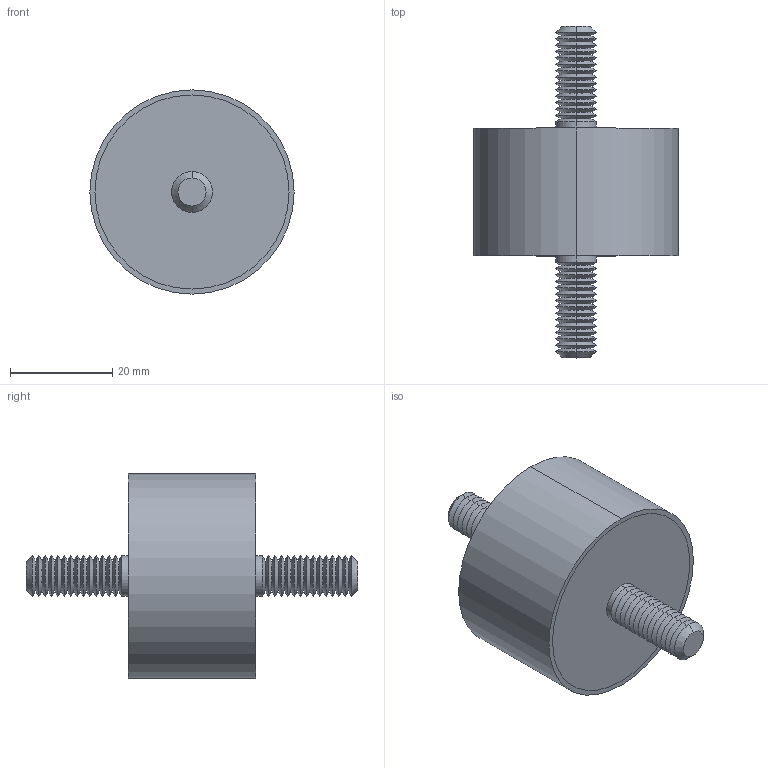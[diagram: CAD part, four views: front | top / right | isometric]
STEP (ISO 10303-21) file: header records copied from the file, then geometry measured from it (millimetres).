
FILE_DESCRIPTION (( 'STEP AP203' ), '1' );
FILE_NAME ('61040.W0403.step', '2019-09-24T22:35:09', ( '' ), ( '' ), 'SwSTEP 2.0', 'SolidWorks 2017', '' );
FILE_SCHEMA (( 'CONFIG_CONTROL_DESIGN' ));
Length unit declared in the file: millimetre
Products named in the file (4): Part3_61040.W0403; Part2_61040.W0403; Part1_61040.W0403; 61040.W0403
Assembly tree (3 placements, depth 2):
  61040.W0403
    Part1_61040.W0403
    Part2_61040.W0403
    Part3_61040.W0403
Bounding box: 40 x 65 x 40 mm (x, y, z)
Volume: 32958.2 mm3; surface area: 12274.9 mm2
Topology: 3 solids, 3 shells, 140 faces, 274 edges, 144 vertices
Faces by surface type: cone 116, cylinder 14, plane 10
Entity records: 3908 total; most frequent: DIRECTION 710, CARTESIAN_POINT 564, ORIENTED_EDGE 548, AXIS2_PLACEMENT_3D 290, EDGE_CURVE 274, EDGE_LOOP 144, VERTEX_POINT 144, CIRCLE 144
